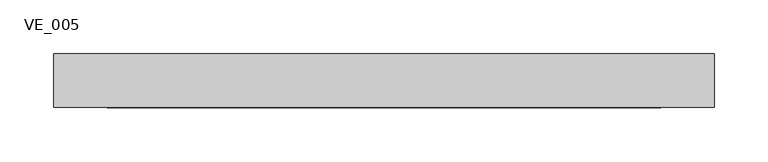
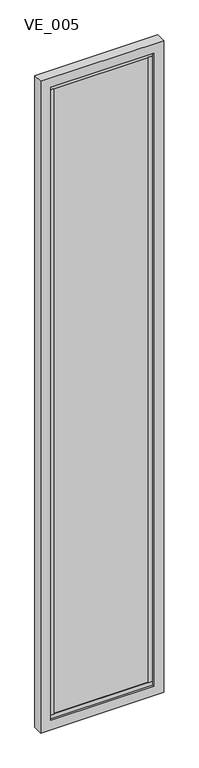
"""IFC4 building model written with IfcOpenShell, lengths in millimetres: plate geometry, TRP_CP_ARC_PF_RE : VE_005."""

from ifc_helpers import new_model, si_unit, frame, origin, place, context, project, spatial, polyline, outline, extrude, source, transform, mapped, element, save


def ve_005_ac013490(model_context):
    return source(origin(), model_context, "Body", "SweptSolid", [
        extrude(outline(polyline([(237.7744535, -10.0), (-237.7744535, -10.0), (-237.7744535, 10.0), (237.7744535, 10.0), (237.7744535, -10.0)])), frame((0.0, 0.0, 70.0), z_axis=(0.0, 0.0, 1.0), x_axis=(1.0, 0.0, 0.0)), (0.0, 0.0, 1.0), 3310.0),
        extrude(outline(polyline([(257.7744535, -15.0), (237.7744535, -15.0), (237.7744535, 15.0), (257.7744535, 15.0), (257.7744535, -15.0)])), frame((0.0, 0.0, 70.0), z_axis=(0.0, 0.0, 1.0), x_axis=(1.0, 0.0, 0.0)), (0.0, 0.0, 1.0), 3310.0),
        extrude(outline(polyline([(-237.7744535, -15.0), (-257.7744535, -15.0), (-257.7744535, 15.0), (-237.7744535, 15.0), (-237.7744535, -15.0)])), frame((0.0, 0.0, 70.0), z_axis=(0.0, 0.0, 1.0), x_axis=(1.0, 0.0, 0.0)), (0.0, 0.0, 1.0), 3310.0),
        extrude(outline(polyline([(257.7744535, -15.0), (-257.7744535, -15.0), (-257.7744535, 15.0), (257.7744535, 15.0), (257.7744535, -15.0)])), frame((0.0, 0.0, 50.0), z_axis=(0.0, 0.0, 1.0), x_axis=(1.0, 0.0, 0.0)), (0.0, 0.0, 1.0), 20.0),
        extrude(outline(polyline([(257.7744535, -15.0), (-257.7744535, -15.0), (-257.7744535, 15.0), (257.7744535, 15.0), (257.7744535, -15.0)])), frame((0.0, 0.0, 3380.0), z_axis=(0.0, 0.0, 1.0), x_axis=(1.0, 0.0, 0.0)), (0.0, 0.0, 1.0), 20.0),
        extrude(outline(polyline([(3450.0, 307.7744535), (3450.0, -307.7744535), (0.0, -307.7744535), (0.0, 307.7744535), (3450.0, 307.7744535)]), holes=[polyline([(50.0, 257.7744535), (50.0, -257.7744535), (3400.0, -257.7744535), (3400.0, 257.7744535), (50.0, 257.7744535)])]), frame((0.0, -25.0, 0.0), z_axis=(0.0, 1.0, 0.0), x_axis=(0.0, 0.0, 1.0)), (0.0, 0.0, 1.0), 50.0),
    ])


if __name__ == "__main__":
    model = new_model("IFC4")
    model_context = context("Model", 3, world=origin())
    ifc_project = project(units=[si_unit("LENGTHUNIT", "METRE", prefix="MILLI")], contexts=[model_context])
    site = spatial("IfcSite", under=ifc_project)
    building = spatial("IfcBuilding", under=site)
    placement = place(None, origin())
    ve_005_shape = ve_005_ac013490(model_context)
    element("IfcPlate", 1, ObjectType="TRP_CP_ARC_PF_RE : VE_005", at=placement, inside=building, context=model_context, shape_type="MappedRepresentation", body=[
        mapped(ve_005_shape, transform((0.0, 0.0, 0.0), x_axis=(1.0, 0.0, 0.0), y_axis=(0.0, 1.0, 0.0), z_axis=(0.0, 0.0, 1.0))),
    ])
    save(model, "model.ifc")
